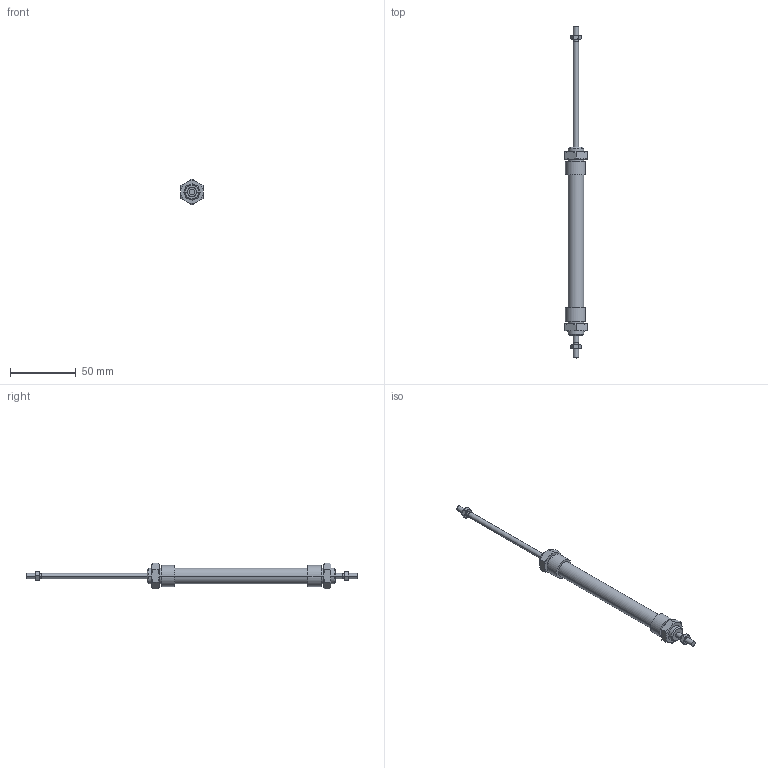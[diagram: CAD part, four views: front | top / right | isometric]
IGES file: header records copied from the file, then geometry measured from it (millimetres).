
Global section: file name: No Iges File Name specified; native system: AutoDesk Inventor R6.0; preprocessor: AutoDesk Inventor Iges Exporter R6.0; author: No Author specified; organization: No Organization specified; date: 20030403.071859; units: millimetre
Bounding box: 17 x 252 x 19.63 mm (x, y, z)
Volume: 20887.8 mm3; surface area: 13088.7 mm2
Topology: 6 solids, 6 shells, 172 faces, 374 edges, 220 vertices
Faces by surface type: cone 68, plane 46, bspline 32, cylinder 20, revolution 6
